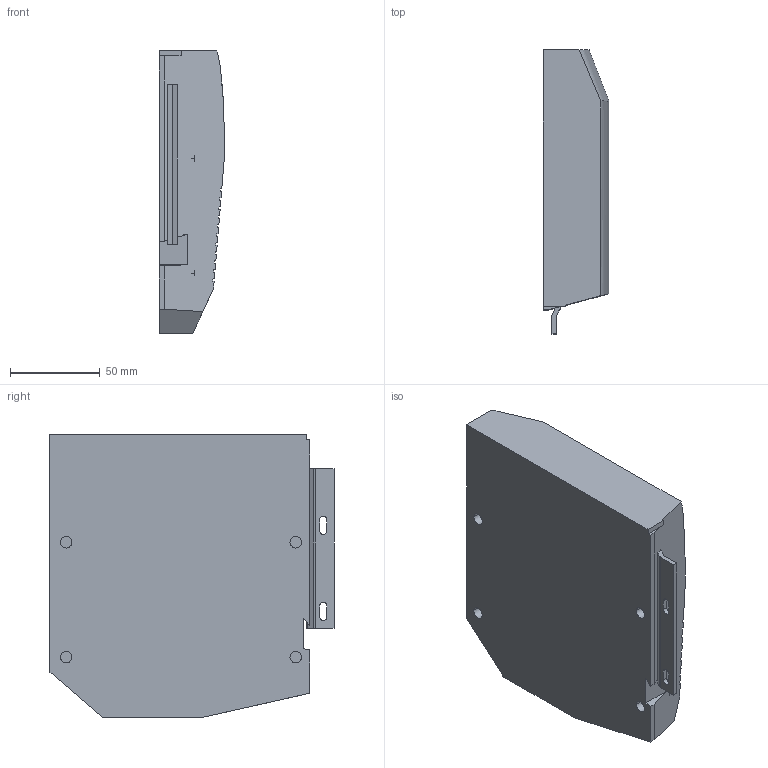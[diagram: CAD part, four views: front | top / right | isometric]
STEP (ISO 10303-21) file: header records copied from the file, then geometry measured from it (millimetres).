
FILE_DESCRIPTION (( 'STEP AP203' ), '1' );
FILE_NAME ('Kinvaro_T-70_links_D2712529325~0.step', '2012-05-04T06:49:27', ( 'admin' ), ( 'Hewlett-Packard Company' ), 'SwSTEP 2.0', 'SolidWorks 2011', '' );
FILE_SCHEMA (( 'CONFIG_CONTROL_DESIGN' ));
Length unit declared in the file: millimetre
Products named in the file (1): Kinvaro_T-70_links_D2712529325~0
Bounding box: 36.77 x 158.3 x 157.62 mm (x, y, z)
Volume: 689560.6 mm3; surface area: 65911.3 mm2
Topology: 1 solids, 1 shells, 118 faces, 331 edges, 219 vertices
Faces by surface type: plane 103, cylinder 13, bspline 2
Entity records: 4049 total; most frequent: CARTESIAN_POINT 908, ORIENTED_EDGE 662, DIRECTION 586, EDGE_CURVE 331, VECTOR 300, LINE 300, VERTEX_POINT 219, AXIS2_PLACEMENT_3D 143
